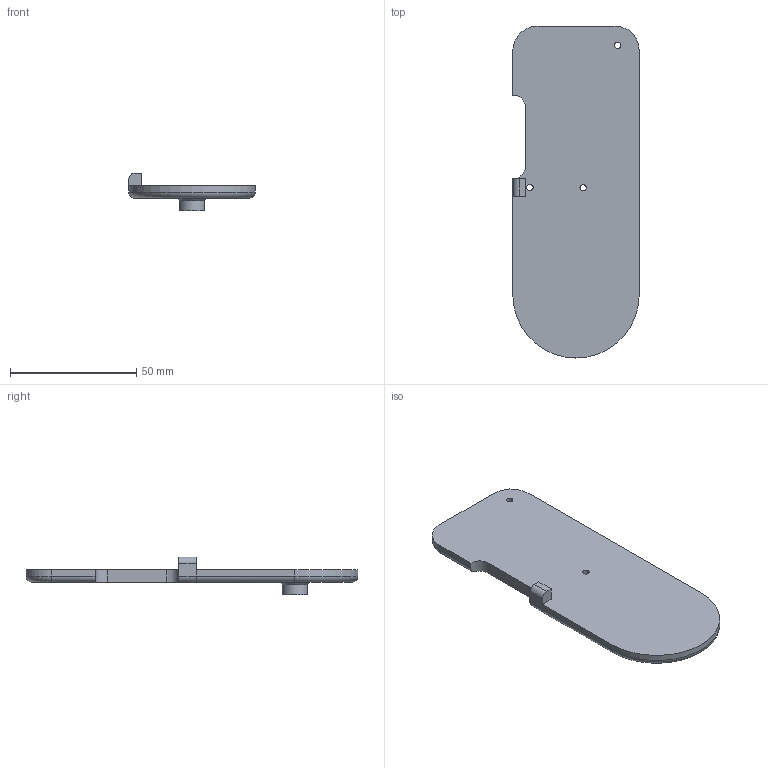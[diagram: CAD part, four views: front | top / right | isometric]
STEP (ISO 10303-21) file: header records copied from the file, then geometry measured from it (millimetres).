
FILE_DESCRIPTION(/* description */ (''),/* implementation_level */ '2;1');
FILE_NAME(/* name */ 'right_upper_top.step',/* time_stamp */ '2026-06-13T15:30:34-06:00',/* author */ (''),/* organization */ (''),/* preprocessor_version */ 'ST-DEVELOPER v20.1',/* originating_system */ 'Autodesk Translation Framework v15.8.0.0',/* authorisation */ '');
FILE_SCHEMA (('AUTOMOTIVE_DESIGN { 1 0 10303 214 3 1 1 }'));
Length unit declared in the file: millimetre
Products named in the file (1): right_upper_top
Bounding box: 50 x 131.3 x 15 mm (x, y, z)
Volume: 30559.5 mm3; surface area: 13887 mm2
Topology: 1 solids, 1 shells, 40 faces, 99 edges, 62 vertices
Faces by surface type: cylinder 17, plane 15, cone 4, torus 4
Full cylindrical faces by diameter (mm): 2.5 x3, 9.9 x1
Entity records: 1276 total; most frequent: CARTESIAN_POINT 246, DIRECTION 218, ORIENTED_EDGE 198, EDGE_CURVE 99, AXIS2_PLACEMENT_3D 82, VERTEX_POINT 62, LINE 54, VECTOR 54
